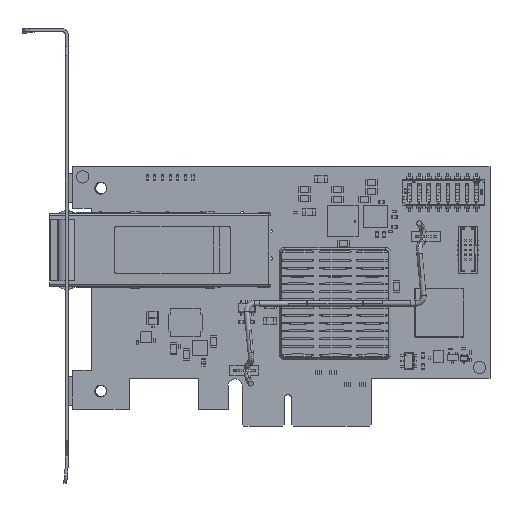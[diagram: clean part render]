
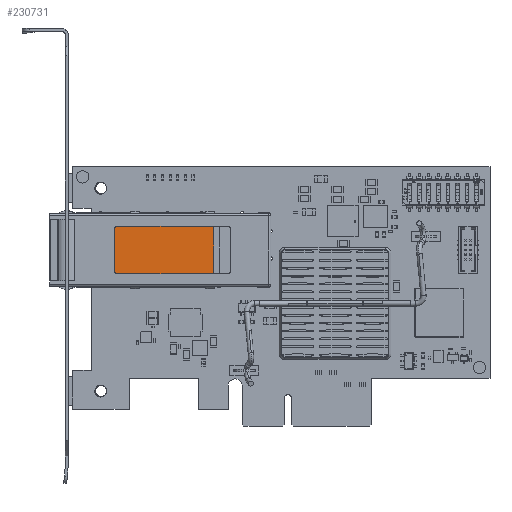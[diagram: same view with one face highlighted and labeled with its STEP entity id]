
A CAD part, top view. The second image highlights one B-rep face of the part: STEP entity #230731.
In plain terms, the highlighted free-form (B-spline) face has degree [1, 1] with [2, 2] control points.
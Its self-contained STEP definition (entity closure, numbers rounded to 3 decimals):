
#230731 = ADVANCED_FACE('',(#230732),#230798,.T.);
#230732 = FACE_BOUND('',#230733,.T.);
#230733 = EDGE_LOOP('',(#230734,#230744,#230752,#230760,#230768,#230776,
    #230784,#230792));
#230734 = ORIENTED_EDGE('',*,*,#230735,.T.);
#230735 = EDGE_CURVE('',#230736,#230738,#230740,.T.);
#230736 = VERTEX_POINT('',#230737);
#230737 = CARTESIAN_POINT('',(-8.2,0.475,-6.83));
#230738 = VERTEX_POINT('',#230739);
#230739 = CARTESIAN_POINT('',(-8.2,0.475,0.));
#230740 = LINE('',#230741,#230742);
#230741 = CARTESIAN_POINT('',(-8.2,0.475,-6.83));
#230742 = VECTOR('',#230743,1.);
#230743 = DIRECTION('',(0.,0.,1.));
#230744 = ORIENTED_EDGE('',*,*,#230745,.T.);
#230745 = EDGE_CURVE('',#230738,#230746,#230748,.T.);
#230746 = VERTEX_POINT('',#230747);
#230747 = CARTESIAN_POINT('',(-9.125,0.475,0.));
#230748 = LINE('',#230749,#230750);
#230749 = CARTESIAN_POINT('',(-8.2,0.475,0.));
#230750 = VECTOR('',#230751,1.);
#230751 = DIRECTION('',(-1.,0.,0.));
#230752 = ORIENTED_EDGE('',*,*,#230753,.T.);
#230753 = EDGE_CURVE('',#230746,#230754,#230756,.T.);
#230754 = VERTEX_POINT('',#230755);
#230755 = CARTESIAN_POINT('',(-9.125,0.475,-43.6));
#230756 = LINE('',#230757,#230758);
#230757 = CARTESIAN_POINT('',(-9.125,0.475,0.));
#230758 = VECTOR('',#230759,1.);
#230759 = DIRECTION('',(0.,0.,-1.));
#230760 = ORIENTED_EDGE('',*,*,#230761,.T.);
#230761 = EDGE_CURVE('',#230754,#230762,#230764,.T.);
#230762 = VERTEX_POINT('',#230763);
#230763 = CARTESIAN_POINT('',(9.125,0.475,-43.6));
#230764 = LINE('',#230765,#230766);
#230765 = CARTESIAN_POINT('',(-9.125,0.475,-43.6));
#230766 = VECTOR('',#230767,1.);
#230767 = DIRECTION('',(1.,0.,0.));
#230768 = ORIENTED_EDGE('',*,*,#230769,.T.);
#230769 = EDGE_CURVE('',#230762,#230770,#230772,.T.);
#230770 = VERTEX_POINT('',#230771);
#230771 = CARTESIAN_POINT('',(9.125,0.475,0.));
#230772 = LINE('',#230773,#230774);
#230773 = CARTESIAN_POINT('',(9.125,0.475,-43.6));
#230774 = VECTOR('',#230775,1.);
#230775 = DIRECTION('',(0.,0.,1.));
#230776 = ORIENTED_EDGE('',*,*,#230777,.T.);
#230777 = EDGE_CURVE('',#230770,#230778,#230780,.T.);
#230778 = VERTEX_POINT('',#230779);
#230779 = CARTESIAN_POINT('',(8.2,0.475,0.));
#230780 = LINE('',#230781,#230782);
#230781 = CARTESIAN_POINT('',(9.125,0.475,0.));
#230782 = VECTOR('',#230783,1.);
#230783 = DIRECTION('',(-1.,0.,0.));
#230784 = ORIENTED_EDGE('',*,*,#230785,.T.);
#230785 = EDGE_CURVE('',#230778,#230786,#230788,.T.);
#230786 = VERTEX_POINT('',#230787);
#230787 = CARTESIAN_POINT('',(8.2,0.475,-6.83));
#230788 = LINE('',#230789,#230790);
#230789 = CARTESIAN_POINT('',(8.2,0.475,0.));
#230790 = VECTOR('',#230791,1.);
#230791 = DIRECTION('',(0.,0.,-1.));
#230792 = ORIENTED_EDGE('',*,*,#230793,.T.);
#230793 = EDGE_CURVE('',#230786,#230736,#230794,.T.);
#230794 = LINE('',#230795,#230796);
#230795 = CARTESIAN_POINT('',(8.2,0.475,-6.83));
#230796 = VECTOR('',#230797,1.);
#230797 = DIRECTION('',(-1.,0.,0.));
#230798 = B_SPLINE_SURFACE_WITH_KNOTS('',1,1,(
    (#230799,#230800)
    ,(#230801,#230802
    )),.UNSPECIFIED.,.F.,.F.,.F.,(2,2),(2,2),(0.,1.),(0.,1.),
  .PIECEWISE_BEZIER_KNOTS.);
#230799 = CARTESIAN_POINT('',(-9.125,0.475,-43.6));
#230800 = CARTESIAN_POINT('',(-9.125,0.475,0.));
#230801 = CARTESIAN_POINT('',(9.125,0.475,-43.6));
#230802 = CARTESIAN_POINT('',(9.125,0.475,0.));
